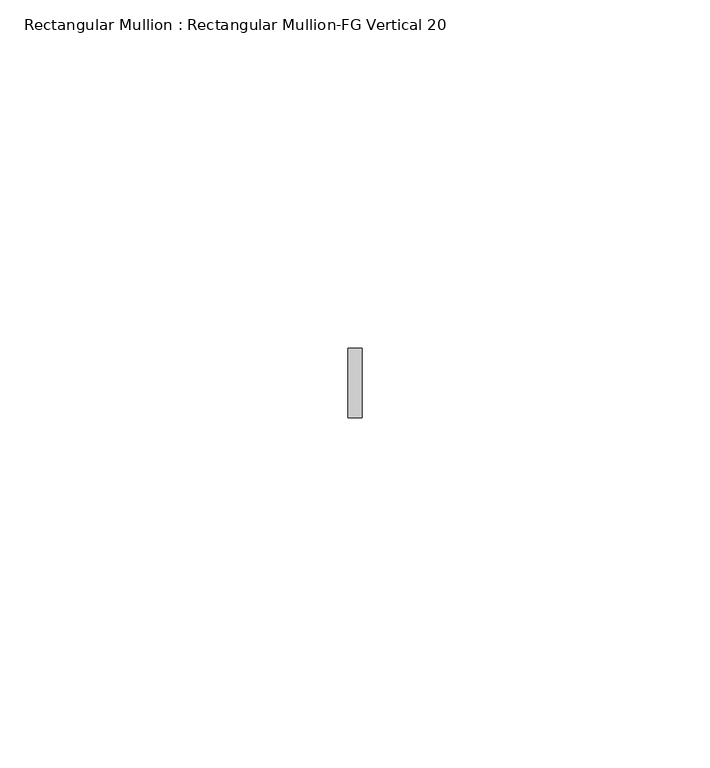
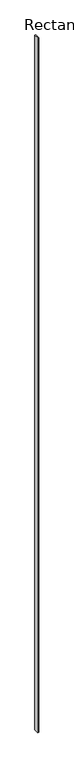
"""IFC4 building model written with IfcOpenShell, lengths in millimetres: member geometry, Rectangular Mullion : Rectangular Mullion-FG Vertical 20."""

from ifc_helpers import new_model, si_unit, frame, origin, place, context, project, spatial, polyline, outline, extrude, source, transform, mapped, element, save


def rectangular_mullion_rectangular_mullion_fg_vertical_20_200451c2(model_context):
    return source(origin(), model_context, "Body", "SweptSolid", [
        extrude(outline(polyline([(1.0, -12.4), (-1.0, -12.4), (-1.0, -2.4), (1.0, -2.4), (1.0, -12.4)])), frame((0.0, 0.0, -1541.3454707), z_axis=(0.0, 0.0, 1.0), x_axis=(1.0, 0.0, 0.0)), (0.0, 0.0, 1.0), 1541.3454707),
    ])


if __name__ == "__main__":
    model = new_model("IFC4")
    model_context = context("Model", 3, world=origin())
    ifc_project = project(units=[si_unit("LENGTHUNIT", "METRE", prefix="MILLI")], contexts=[model_context])
    site = spatial("IfcSite", under=ifc_project)
    building = spatial("IfcBuilding", under=site)
    placement = place(None, origin())
    rectangular_mullion_rectangular_mullion_fg_vertical_20_shape = rectangular_mullion_rectangular_mullion_fg_vertical_20_200451c2(model_context)
    element("IfcMember", 1, ObjectType="Rectangular Mullion : Rectangular Mullion-FG Vertical 20", at=placement, inside=building, context=model_context, shape_type="MappedRepresentation", body=[
        mapped(rectangular_mullion_rectangular_mullion_fg_vertical_20_shape, transform((0.0, 0.0, 0.0), x_axis=(1.0, 0.0, 0.0), y_axis=(0.0, 1.0, 0.0), z_axis=(0.0, 0.0, 1.0))),
    ])
    save(model, "model.ifc")
